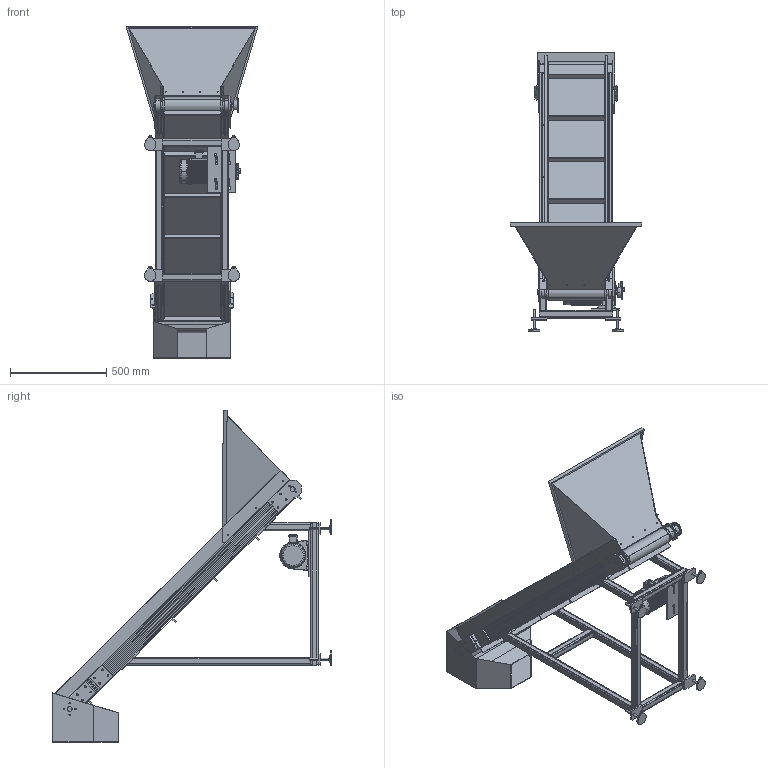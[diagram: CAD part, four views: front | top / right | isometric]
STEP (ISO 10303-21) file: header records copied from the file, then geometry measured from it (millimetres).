
FILE_DESCRIPTION(/* description */ (''),/* implementation_level */ '2;1');
FILE_NAME(/* name */ 'beltconveyor_a126_w300_l1650.stp',/* time_stamp */ '2025-01-12T22:00:35+08:00',/* author */ (''),/* organization */ (''),/* preprocessor_version */ 'ST-DEVELOPER v16.7',/* originating_system */ 'SIEMENS PLM Software NX 12.0',/* authorisation */ '');
FILE_SCHEMA (('AUTOMOTIVE_DESIGN { 1 0 10303 214 3 1 1 1 }'));
Products named in the file (33): 辊--支板 - 2; deep groove ball bearings gb_Rolling bearings 6301 GB 276-94; 辊--支板; 辊--支板 - 2 - 反; 轴承座; 顶丝弯板; deep groove ball bearings gb_轴承 6205 GB 27
6-94; 40-80铝型材--1510; 卧式TCH减速电机[TCH22-200-(12.5-90)]_TCH2
2-200-(12.5-90); 主动链轮08B20齿-D22_05B; 输送带-3-295-1630; 主动辊; 从动辊; 托板---1500; 提升机--固定板; 地脚--支板; 固定 地角-12; 提升机--机架_默认_
按加工_; 边档; 电动机-底板; 上料机料斗--2014,07-03; 落料斗; short pitch roller chain wheel_s_iso_链轮 23Z 06B-1 --23S
B50H25L15S1; 提升电机装配; 辊--支板 - 总成---2.SL
DPRT; 辊--支板 - 总成.--4   
SLDPRT; 输送机--梁--2 -; 辊--支板 - 总成.--3SLD
PRT; 辊--支板 - 总成.SLDPRT; 输送机--梁--1; 输送机--上料; 提升机--架体; beltconveyor_a126_w300_l1650
Assembly tree (50 placements, depth 5):
  beltconveyor_a126_w300_l1650
    short pitch roller chain wheel_s_iso_链轮 23Z 06B-1 --23S
B50H25L15S1
    落料斗
    提升机--架体
      提升机--机架_默认_
按加工_
      固定 地角-12  x4
      地脚--支板  x4
      提升机--固定板  x4
    上料机料斗--2014,07-03
    输送机--上料
      输送机--梁--1
        辊--支板 - 总成.SLDPRT
          deep groove ball bearings gb_轴承 6205 GB 27
6-94
          顶丝弯板
          轴承座
          辊--支板 - 2 - 反
        辊--支板 - 总成.--3SLD
PRT
          辊--支板
          轴承座
          deep groove ball bearings gb_Rolling bearings 6301 GB 276-94
        40-80铝型材--1510
      托板---1500
      从动辊
      主动辊
      输送带-3-295-1630
      输送机--梁--2 -
        40-80铝型材--1510
        辊--支板 - 总成.--4   
SLDPRT
          轴承座
          辊--支板
          deep groove ball bearings gb_轴承 6205 GB 27
6-94
        辊--支板 - 总成---2.SL
DPRT
          轴承座
          辊--支板 - 2
          deep groove ball bearings gb_Rolling bearings 6301 GB 276-94
          顶丝弯板
    电动机-底板
    边档  x2
    提升电机装配
      主动链轮08B20齿-D22_05B
      卧式TCH减速电机[TCH22-200-(12.5-90)]_TCH2
2-200-(12.5-90)
Bounding box: 686.76 x 1453.75 x 1728.45 mm (x, y, z)
Volume: 20360427.8 mm3; surface area: 11047858.6 mm2
Topology: 122 solids, 124 shells, 3998 faces, 11442 edges, 7511 vertices
Faces by surface type: plane 1644, cylinder 999, extrusion 738, torus 337, sphere 124, bspline 97, cone 59
Entity records: 103913 total; most frequent: CARTESIAN_POINT 32658, ORIENTED_EDGE 15606, DIRECTION 12431, EDGE_CURVE 7803, VERTEX_POINT 5130, AXIS2_PLACEMENT_3D 4277, VECTOR 3877, LINE 3508
